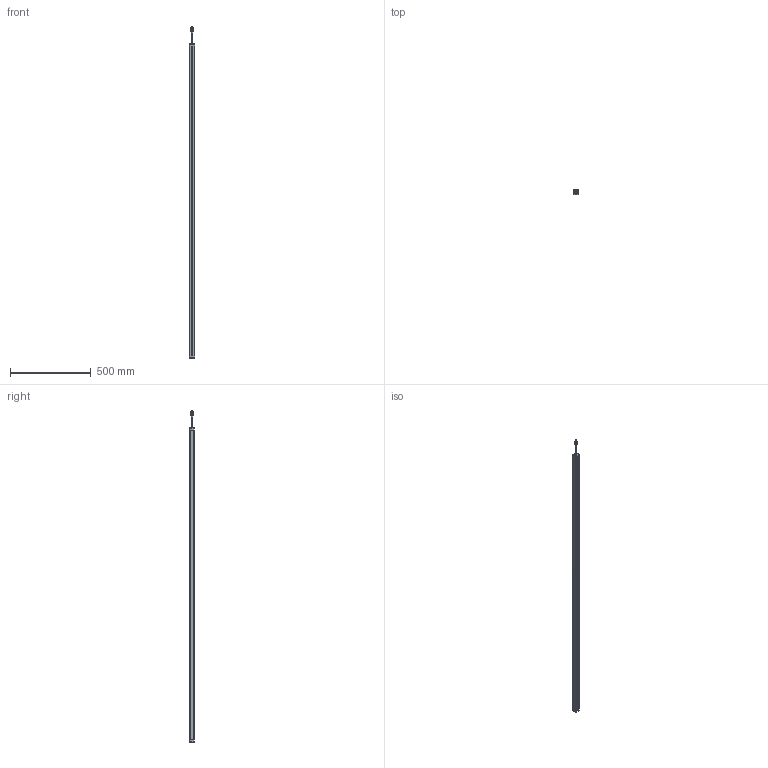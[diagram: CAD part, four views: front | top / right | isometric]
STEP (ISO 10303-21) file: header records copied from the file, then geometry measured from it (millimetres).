
FILE_DESCRIPTION((''),'2;1');
FILE_NAME('SMT1-CGQ_ASM','2025-08-08T08:52:26',('Administrator'),(''),'CREO PARAMETRIC BY PTC INC, 2016510','CREO PARAMETRIC BY PTC INC, 2016510','');
FILE_SCHEMA(('CONFIG_CONTROL_DESIGN'));
Length unit declared in the file: millimetre
Products named in the file (7): SMT1-XINGCAI-V1; SMT1-SDG-V1; SMT1-XDG-V1; M12-CHATOU; ST3X18; CT4-LVGUANGBAN; SMT1-CGQ_ASM
Assembly tree (13 placements, depth 2):
  SMT1-CGQ_ASM
    SMT1-XINGCAI-V1
    SMT1-SDG-V1
    SMT1-XDG-V1
    M12-CHATOU
    ST3X18  x8
    CT4-LVGUANGBAN
Bounding box: 33 x 28.02 x 2059.5 mm (x, y, z)
Volume: 1504849.1 mm3; surface area: 479421.9 mm2
Topology: 13 solids, 13 shells, 712 faces, 1868 edges, 1200 vertices
Faces by surface type: plane 382, cylinder 184, extrusion 86, sphere 32, cone 20, bspline 8
Entity records: 18128 total; most frequent: CARTESIAN_POINT 4347, ORIENTED_EDGE 2916, DIRECTION 2580, EDGE_CURVE 1458, VECTOR 1036, VERTEX_POINT 955, LINE 950, AXIS2_PLACEMENT_3D 772
